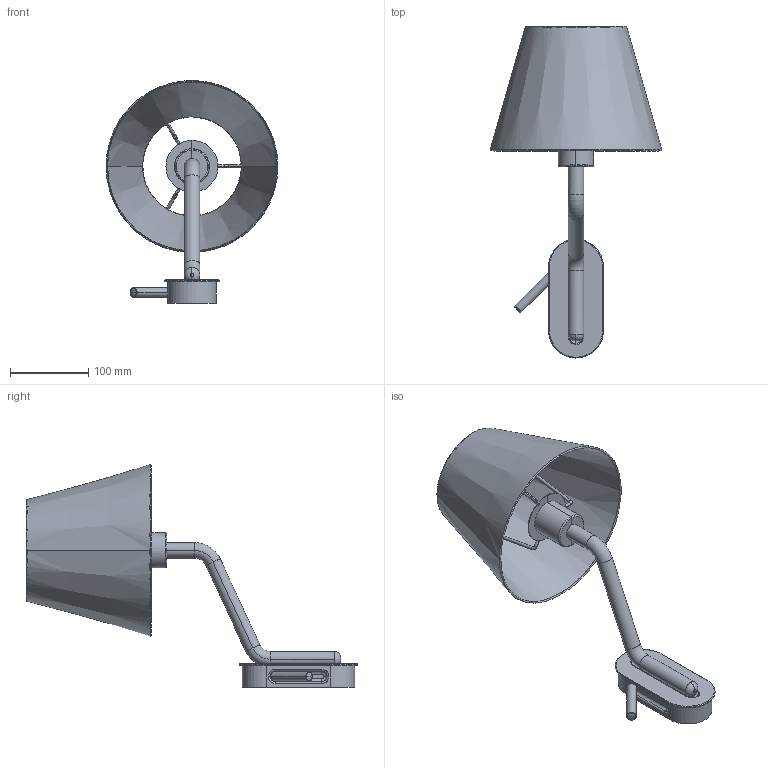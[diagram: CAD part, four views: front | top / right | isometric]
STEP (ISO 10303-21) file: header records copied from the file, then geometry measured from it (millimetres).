
FILE_DESCRIPTION(/* description */ (''),/* implementation_level */ '2;1');
FILE_NAME(/* name */ 'C:\Users\FrancoSartori\Documents\FARO\01_En Proceso\00_ETERNA\03_Publicación\24006-11.stp',/* time_stamp */ '2021-06-01T11:10:57+02:00',/* author */ ('FrancoSartori'),/* organization */ (''),/* preprocessor_version */ 'ST-DEVELOPER v18.1',/* originating_system */ 'AutoCAD Mechanical',/* authorisation */ '');
FILE_SCHEMA (('AUTOMOTIVE_DESIGN { 1 0 10303 214 3 1 1 }'));
Length unit declared in the file: millimetre
Products named in the file (3): Product; 24006-10_ 24006-11_ 24006-12_ - structure-570401-_3D_; 2P0212 - 2P0211 White textile shade-570414-_3D_
Assembly tree (2 placements, depth 2):
  Product
    24006-10_ 24006-11_ 24006-12_ - structure-570401-_3D_
    2P0212 - 2P0211 White textile shade-570414-_3D_
Bounding box: 220 x 424.95 x 285.37 mm (x, y, z)
Volume: 311199.3 mm3; surface area: 460598.6 mm2
Topology: 14 solids, 14 shells, 201 faces, 462 edges, 287 vertices
Faces by surface type: plane 69, cylinder 68, torus 32, bspline 18, cone 12, sphere 2
Entity records: 8003 total; most frequent: CARTESIAN_POINT 3709, ORIENTED_EDGE 924, DIRECTION 759, EDGE_CURVE 462, AXIS2_PLACEMENT_3D 288, VERTEX_POINT 287, EDGE_LOOP 213, FACE_OUTER_BOUND 201
